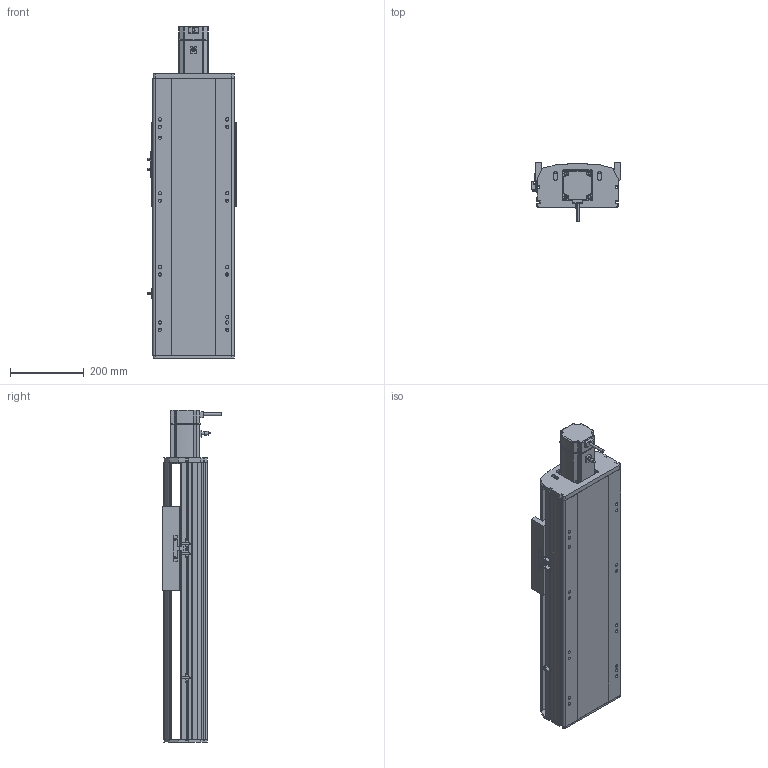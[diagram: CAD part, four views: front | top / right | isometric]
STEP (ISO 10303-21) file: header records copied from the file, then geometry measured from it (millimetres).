
FILE_DESCRIPTION (( 'STEP AP214' ), '1' );
FILE_NAME ('RTH22-XX-350-E-M75-C4.STEP', '2025-10-24T10:42:35', ( 'Microsoft' ), ( 'Microsoft' ), 'SwSTEP 2.0', 'SolidWorks 2018', '' );
FILE_SCHEMA (( 'AUTOMOTIVE_DESIGN' ));
Length unit declared in the file: millimetre
Products named in the file (9): N_RTH22-GY-013外置感应片^RTH22-XX-XX-E-M75-C4; N_RTH22-E-011菁釱^RTH22-XX-XX-E-M75-C4; N_OMRON EE-SX672 传感器^RTH22-XX-XX-E-M75-C4; N_RTH22-E-008萇儂啣^RTH22-XX-XX-E-M75-C4; N_750W萇儂^RTH22-XX-XX-E-M75-C4; RTH22-XX-350-E-M75-C4; N_RTH22-E-004-SFS25賑釱^RTH22-XX-XX-E-M75-C4; N_RTH22-E-007奻裔^RTH22-XX-XX-E-M75-C4; N_RTH22-GY-001耜裔^RTH22-XX-XX-E-M75-C4
Assembly tree (10 placements, depth 2):
  RTH22-XX-350-E-M75-C4
    N_RTH22-E-011菁釱^RTH22-XX-XX-E-M75-C4
    N_RTH22-GY-001耜裔^RTH22-XX-XX-E-M75-C4
    N_RTH22-E-008萇儂啣^RTH22-XX-XX-E-M75-C4
    N_RTH22-E-007奻裔^RTH22-XX-XX-E-M75-C4
    N_RTH22-GY-013外置感应片^RTH22-XX-XX-E-M75-C4
    N_RTH22-E-004-SFS25賑釱^RTH22-XX-XX-E-M75-C4
    N_750W萇儂^RTH22-XX-XX-E-M75-C4
    N_OMRON EE-SX672 传感器^RTH22-XX-XX-E-M75-C4  x3
Bounding box: 238.5 x 160.7 x 899 mm (x, y, z)
Volume: 11826169.5 mm3; surface area: 1258539.3 mm2
Topology: 10 solids, 10 shells, 1487 faces, 4074 edges, 2639 vertices
Faces by surface type: plane 750, cylinder 412, bspline 279, cone 46
Entity records: 36517 total; most frequent: CARTESIAN_POINT 11561, ORIENTED_EDGE 5148, DIRECTION 4780, EDGE_CURVE 2574, VERTEX_POINT 1675, VECTOR 1608, LINE 1608, AXIS2_PLACEMENT_3D 1586
